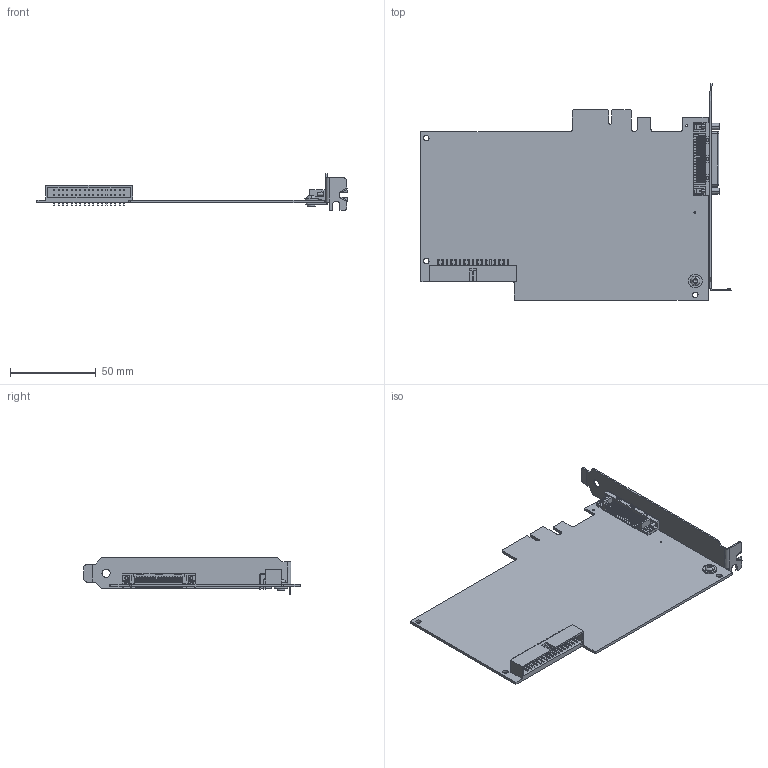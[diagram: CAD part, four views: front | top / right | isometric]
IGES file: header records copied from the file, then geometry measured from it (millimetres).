
Start section:  PTC IGES file: cu_pcie-6346.igs
Global section: file name: cu_pcie-6346.igs; native system: Creo Parametric by PTC Inc.; preprocessor: 2017480; author: dkendric; organization: Unknown; date: 20180806.091302; units: millimetre
Bounding box: 181.05 x 126.32 x 21.59 mm (x, y, z)
Surface area: 44248.8 mm2 (no closed solid volume)
Topology: 0 solids, 0 shells, 2339 faces, 12732 edges, 12715 vertices
Faces by surface type: bspline 1837, revolution 500, extrusion 2
